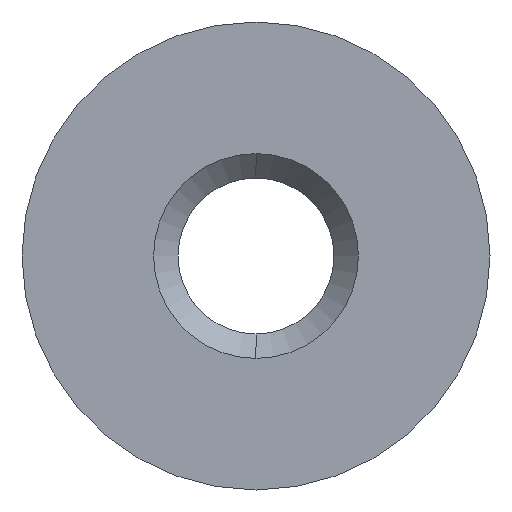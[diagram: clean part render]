
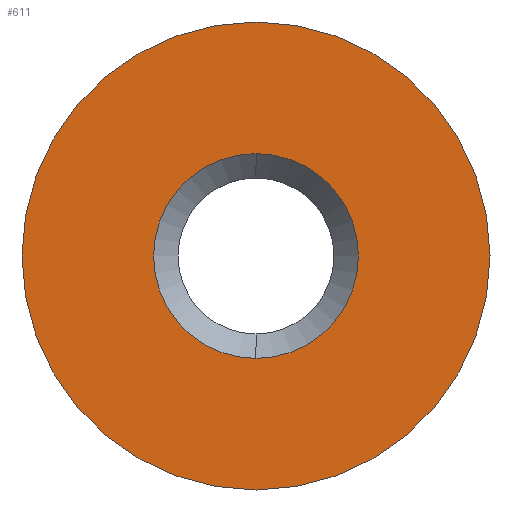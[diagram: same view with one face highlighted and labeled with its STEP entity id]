
A CAD part, left-side view. The second image highlights one B-rep face of the part: STEP entity #611.
In plain terms, the highlighted planar face has unit normal (-1, 0, 0).
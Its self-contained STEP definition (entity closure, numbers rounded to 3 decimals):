
#35 = AXIS2_PLACEMENT_3D ( 'NONE', #257, #532, #802 ) ;
#37 = EDGE_CURVE ( 'NONE', #607, #843, #52, .T. ) ;
#43 = AXIS2_PLACEMENT_3D ( 'NONE', #552, #692, #72 ) ;
#48 = DIRECTION ( 'NONE',  ( -1., 0., 0. ) ) ;
#52 = CIRCLE ( 'NONE', #788, 1.05 ) ;
#72 = DIRECTION ( 'NONE',  ( 0., 0., -1. ) ) ;
#136 = EDGE_CURVE ( 'NONE', #595, #732, #204, .T. ) ;
#189 = ORIENTED_EDGE ( 'NONE', *, *, #633, .F. ) ;
#204 = CIRCLE ( 'NONE', #43, 2.4 ) ;
#229 = AXIS2_PLACEMENT_3D ( 'NONE', #693, #896, #282 ) ;
#245 = CARTESIAN_POINT ( 'NONE',  ( -4.53, 0., 2.4 ) ) ;
#257 = CARTESIAN_POINT ( 'NONE',  ( -4.53, 0., 0. ) ) ;
#267 = PLANE ( 'NONE',  #655 ) ;
#268 = DIRECTION ( 'NONE',  ( 1., 0., 0. ) ) ;
#282 = DIRECTION ( 'NONE',  ( 0., 0., 1. ) ) ;
#300 = EDGE_CURVE ( 'NONE', #843, #607, #394, .T. ) ;
#328 = ORIENTED_EDGE ( 'NONE', *, *, #136, .F. ) ;
#329 = DIRECTION ( 'NONE',  ( 0., 0., 1. ) ) ;
#394 = CIRCLE ( 'NONE', #229, 1.05 ) ;
#436 = CARTESIAN_POINT ( 'NONE',  ( -4.53, 0., -1.05 ) ) ;
#532 = DIRECTION ( 'NONE',  ( 1., 0., 0. ) ) ;
#538 = CARTESIAN_POINT ( 'NONE',  ( -4.53, 2.4, 0. ) ) ;
#550 = EDGE_LOOP ( 'NONE', ( #586, #661 ) ) ;
#552 = CARTESIAN_POINT ( 'NONE',  ( -4.53, 0., 0. ) ) ;
#586 = ORIENTED_EDGE ( 'NONE', *, *, #37, .T. ) ;
#595 = VERTEX_POINT ( 'NONE', #799 ) ;
#607 = VERTEX_POINT ( 'NONE', #608 ) ;
#608 = CARTESIAN_POINT ( 'NONE',  ( -4.53, 0., 1.05 ) ) ;
#611 = ADVANCED_FACE ( 'NONE', ( #735, #887 ), #267, .T. ) ;
#633 = EDGE_CURVE ( 'NONE', #732, #595, #861, .T. ) ;
#655 = AXIS2_PLACEMENT_3D ( 'NONE', #538, #48, #329 ) ;
#661 = ORIENTED_EDGE ( 'NONE', *, *, #300, .T. ) ;
#692 = DIRECTION ( 'NONE',  ( 1., 0., 0. ) ) ;
#693 = CARTESIAN_POINT ( 'NONE',  ( -4.53, 0., 0. ) ) ;
#732 = VERTEX_POINT ( 'NONE', #245 ) ;
#735 = FACE_BOUND ( 'NONE', #550, .T. ) ;
#788 = AXIS2_PLACEMENT_3D ( 'NONE', #801, #268, #875 ) ;
#799 = CARTESIAN_POINT ( 'NONE',  ( -4.53, 0., -2.4 ) ) ;
#801 = CARTESIAN_POINT ( 'NONE',  ( -4.53, 0., 0. ) ) ;
#802 = DIRECTION ( 'NONE',  ( 0., 0., -1. ) ) ;
#843 = VERTEX_POINT ( 'NONE', #436 ) ;
#861 = CIRCLE ( 'NONE', #35, 2.4 ) ;
#863 = EDGE_LOOP ( 'NONE', ( #328, #189 ) ) ;
#875 = DIRECTION ( 'NONE',  ( 0., 0., 1. ) ) ;
#887 = FACE_OUTER_BOUND ( 'NONE', #863, .T. ) ;
#896 = DIRECTION ( 'NONE',  ( 1., 0., 0. ) ) ;
